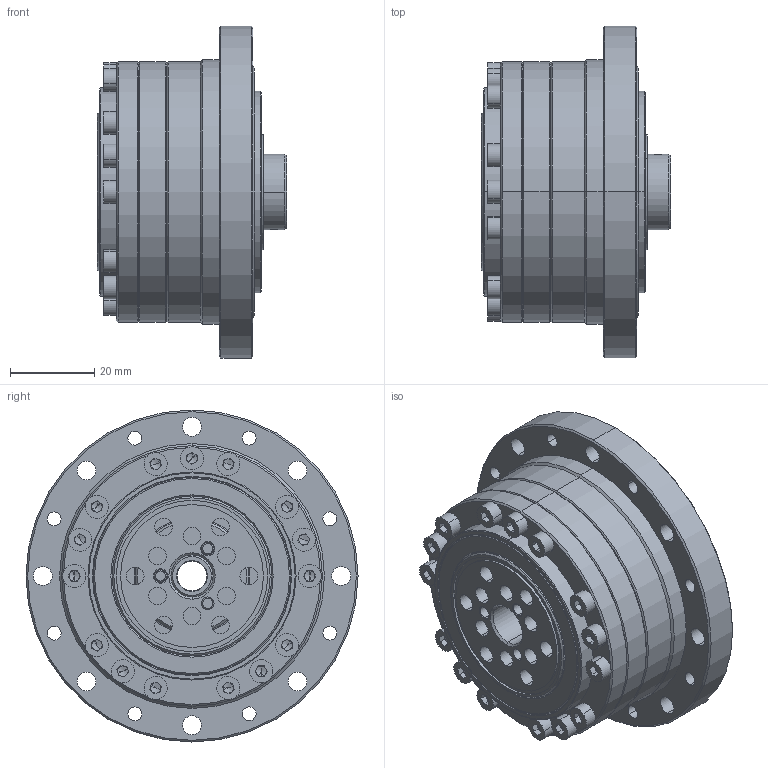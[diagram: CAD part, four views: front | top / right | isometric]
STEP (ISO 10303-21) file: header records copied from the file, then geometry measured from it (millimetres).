
FILE_DESCRIPTION (( 'STEP AP203' ), '1' );
FILE_NAME ('FCG-17-XXX-AO.STEP', '2019-04-26T08:37:09', ( '' ), ( '' ), 'SwSTEP 2.0', 'SolidWorks 2016', '' );
FILE_SCHEMA (( 'CONFIG_CONTROL_DESIGN' ));
Length unit declared in the file: millimetre
Products named in the file (1): FCG-17-XXX-AO
Bounding box: 45.01 x 79 x 79 mm (x, y, z)
Volume: 96640.8 mm3; surface area: 74717.4 mm2
Topology: 64 solids, 64 shells, 1366 faces, 3224 edges, 1970 vertices
Faces by surface type: cylinder 492, plane 433, cone 331, sphere 46, torus 40, bspline 24
Entity records: 39334 total; most frequent: CARTESIAN_POINT 7379, DIRECTION 7293, ORIENTED_EDGE 6118, EDGE_CURVE 3059, AXIS2_PLACEMENT_3D 2943, VERTEX_POINT 1901, EDGE_LOOP 1636, CIRCLE 1600
